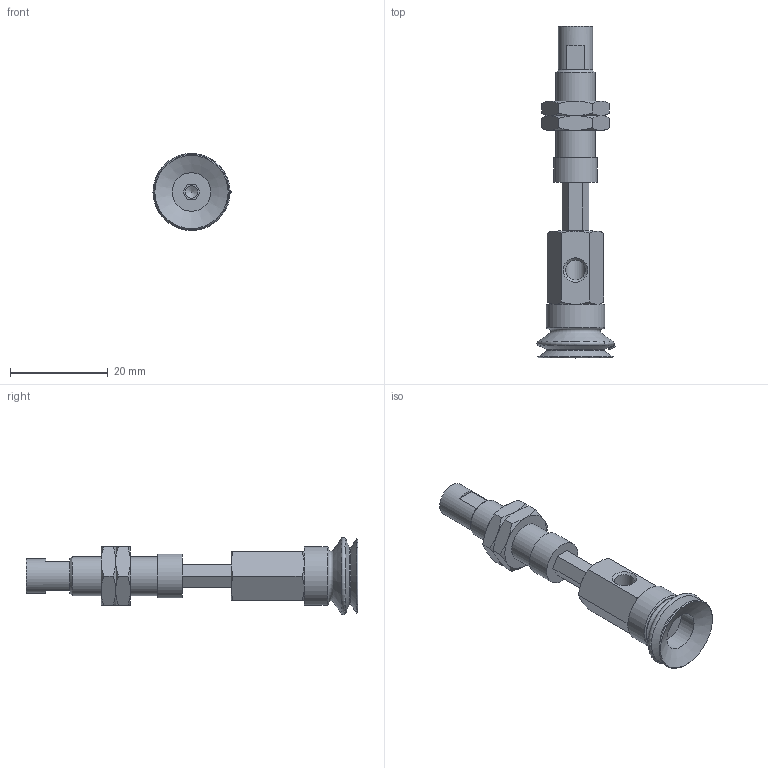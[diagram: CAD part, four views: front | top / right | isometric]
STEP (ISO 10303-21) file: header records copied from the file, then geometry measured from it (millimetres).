
FILE_DESCRIPTION(('STEP AP203'),'1');
FILE_NAME('.stp','2025-04-24T06:42:39',(' '),(' '),'Spatial InterOp 3D',' ',' ');
FILE_SCHEMA(('CONFIG_CONTROL_DESIGN'));
Length unit declared in the file: millimetre
Products named in the file (7): BNABPJYH-15-10-※; Adapter-15-NAPJ; CONNECTOR_H-15-10; NAPJH-15-10-NUT; NAPJTH-15-10-FBODY; NAPJTH-15-10-MBODY; BPJG-15-※
Assembly tree (7 placements, depth 2):
  BNABPJYH-15-10-※
    Adapter-15-NAPJ
    CONNECTOR_H-15-10
    NAPJH-15-10-NUT  x2
    NAPJTH-15-10-FBODY
    NAPJTH-15-10-MBODY
    BPJG-15-※
Bounding box: 15.99 x 68 x 15.78 mm (x, y, z)
Volume: 4407.2 mm3; surface area: 4905.2 mm2
Topology: 7 solids, 7 shells, 164 faces, 362 edges, 218 vertices
Faces by surface type: plane 72, cone 58, cylinder 15, torus 9, bspline 6, sphere 4
Full cylindrical faces by diameter (mm): 2.5 x1, 4.134 x3, 4.6 x1, 5 x2, 7 x1, 7.188 x2, 7.9 x1, 8 x2, 9 x1, 12 x1
Entity records: 4398 total; most frequent: CARTESIAN_POINT 1195, DIRECTION 592, ORIENTED_EDGE 530, EDGE_CURVE 265, AXIS2_PLACEMENT_3D 244, EDGE_LOOP 195, VERTEX_POINT 181, FACE_OUTER_BOUND 162
